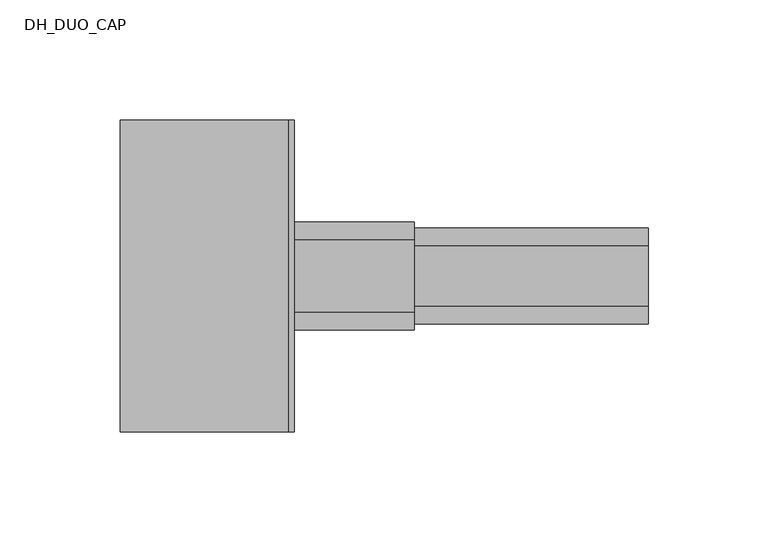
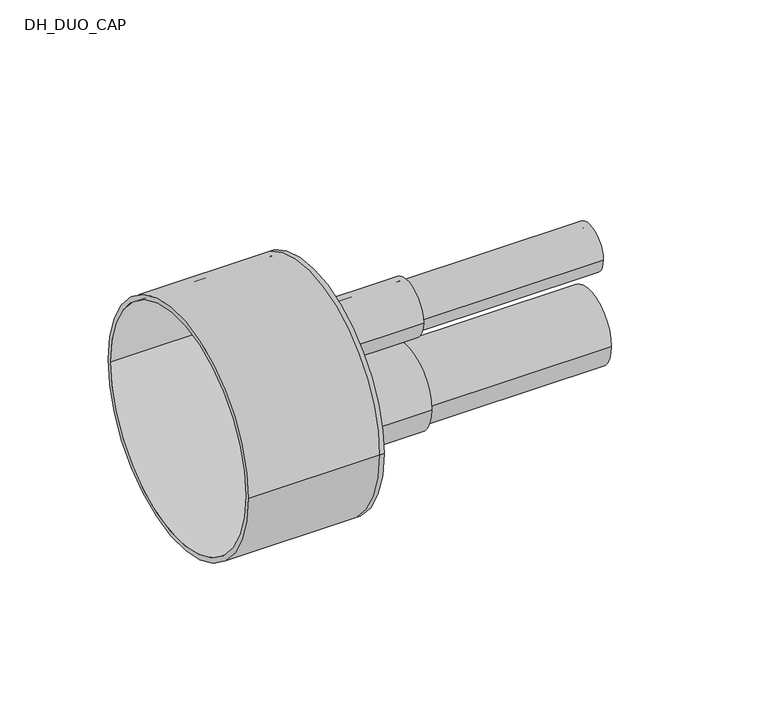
"""IFC4 building model written with IfcOpenShell, lengths in millimetres: pipe fitting geometry, DH_DUO_CAP : INSULPEX DUO 7.4 DW - Rubber Cap."""

from ifc_helpers import new_model, si_unit, point, frame, frame_2d, origin, place, context, project, spatial, polyline, circle_curve, trimmed, segment, composite_curve, outline, extrude, source, transform, mapped, element, save
from ifc_brep_helpers import plane_surface, cylinder_surface, revolved_surface, advanced_brep


def dh_duo_cap_7376605e(model_context):
    return source(origin(), model_context, "Body", "SolidModel", [
        extrude(outline(composite_curve([segment(trimmed(circle_curve(frame_2d((0.0, -18.5)), 20.0), [point((-20.0, -18.5))], [point((20.0, -18.5))], False, "CARTESIAN"), True, "CONTINUOUS"), segment(trimmed(circle_curve(frame_2d((0.0, -18.5)), 20.0), [point((20.0, -18.5))], [point((-20.0, -18.5))], False, "CARTESIAN"), True, "CONTINUOUS")], self_intersect=False), holes=[composite_curve([segment(trimmed(circle_curve(frame_2d((0.0, -18.5)), 14.5), [point((-14.5, -18.5))], [point((14.5, -18.5))], True, "CARTESIAN"), True, "CONTINUOUS"), segment(trimmed(circle_curve(frame_2d((0.0, -18.5)), 14.5), [point((14.5, -18.5))], [point((-14.5, -18.5))], True, "CARTESIAN"), True, "CONTINUOUS")], self_intersect=False)]), frame((0.0, 0.0, 0.0), z_axis=(1.0, 0.0, 0.0), x_axis=(0.0, 1.0, 0.0)), (0.0, 0.0, 1.0), 150.0),
        extrude(outline(composite_curve([segment(trimmed(circle_curve(frame_2d((0.0, 26.0)), 12.5), [point((-12.5, 26.0))], [point((12.5, 26.0))], False, "CARTESIAN"), True, "CONTINUOUS"), segment(trimmed(circle_curve(frame_2d((0.0, 26.0)), 12.5), [point((12.5, 26.0))], [point((-12.5, 26.0))], False, "CARTESIAN"), True, "CONTINUOUS")], self_intersect=False), holes=[composite_curve([segment(trimmed(circle_curve(frame_2d((0.0, 26.0)), 9.0), [point((-9.0, 26.0))], [point((9.0, 26.0))], True, "CARTESIAN"), True, "CONTINUOUS"), segment(trimmed(circle_curve(frame_2d((0.0, 26.0)), 9.0), [point((9.0, 26.0))], [point((-9.0, 26.0))], True, "CARTESIAN"), True, "CONTINUOUS")], self_intersect=False)]), frame((0.0, 0.0, 0.0), z_axis=(1.0, 0.0, 0.0), x_axis=(0.0, 1.0, 0.0)), (0.0, 0.0, 1.0), 150.0),
        advanced_brep(
        [(-70.0, -65.0, 0.0), (-70.0, 65.0, 0.0), (-70.0, -62.5, 0.0), (-70.0, 62.5, 0.0), (0.0, -62.5, 0.0), (0.0, 62.5, 0.0), (0.0, -65.0, 0.0), (0.0, 65.0, 0.0), (0.0, 12.5, 26.0), (0.0, -12.5, 26.0), (0.0, 20.0, -18.5), (0.0, -20.0, -18.5), (2.5, -65.0, 0.0), (2.5, 65.0, 0.0), (2.5, -12.5, 26.0), (2.5, 12.5, 26.0), (2.5, -20.0, -18.5), (2.5, 20.0, -18.5)],
        [
            (0, 1, circle_curve(frame((-70.0, 0.0, 0.0), z_axis=(-1.0, 0.0, 0.0), x_axis=(0.0, 1.0, 0.0)), 65.0)),
            (1, 0, circle_curve(frame((-70.0, 0.0, 0.0), z_axis=(-1.0, 0.0, 0.0), x_axis=(0.0, 1.0, 0.0)), 65.0)),
            (2, 3, circle_curve(frame((-70.0, 0.0, 0.0), z_axis=(1.0, 0.0, 0.0), x_axis=(0.0, 1.0, 0.0)), 62.5)),
            (3, 2, circle_curve(frame((-70.0, 0.0, 0.0), z_axis=(1.0, 0.0, 0.0), x_axis=(0.0, 1.0, 0.0)), 62.5)),
            (2, 4),
            (4, 5, circle_curve(frame((0.0, 0.0, 0.0), z_axis=(1.0, 0.0, 0.0), x_axis=(0.0, 1.0, 0.0)), 62.5)),
            (5, 3),
            (5, 4, circle_curve(frame((0.0, 0.0, 0.0), z_axis=(1.0, 0.0, 0.0), x_axis=(0.0, 1.0, 0.0)), 62.5)),
            (0, 6),
            (6, 7, circle_curve(frame((0.0, 0.0, 0.0), z_axis=(-1.0, 0.0, 0.0), x_axis=(0.0, 1.0, 0.0)), 65.0)),
            (7, 1),
            (7, 6, circle_curve(frame((0.0, 0.0, 0.0), z_axis=(-1.0, 0.0, 0.0), x_axis=(0.0, 1.0, 0.0)), 65.0)),
            (8, 9, circle_curve(frame((0.0, 0.0, 26.0), z_axis=(1.0, 0.0, 0.0), x_axis=(0.0, 1.0, 0.0)), 12.5)),
            (9, 8, circle_curve(frame((0.0, 0.0, 26.0), z_axis=(1.0, 0.0, 0.0), x_axis=(0.0, 1.0, 0.0)), 12.5)),
            (10, 11, circle_curve(frame((0.0, 0.0, -18.5), z_axis=(1.0, 0.0, 0.0), x_axis=(0.0, 1.0, 0.0)), 20.0)),
            (11, 10, circle_curve(frame((0.0, 0.0, -18.5), z_axis=(1.0, 0.0, 0.0), x_axis=(0.0, 1.0, 0.0)), 20.0)),
            (12, 13, circle_curve(frame((2.5, 0.0, 0.0), z_axis=(1.0, 0.0, 0.0), x_axis=(0.0, 1.0, 0.0)), 65.0)),
            (13, 12, circle_curve(frame((2.5, 0.0, 0.0), z_axis=(1.0, 0.0, 0.0), x_axis=(0.0, 1.0, 0.0)), 65.0)),
            (14, 15, circle_curve(frame((2.5, 0.0, 26.0), z_axis=(-1.0, 0.0, 0.0), x_axis=(0.0, 1.0, 0.0)), 12.5)),
            (15, 14, circle_curve(frame((2.5, 0.0, 26.0), z_axis=(-1.0, 0.0, 0.0), x_axis=(0.0, 1.0, 0.0)), 12.5)),
            (16, 17, circle_curve(frame((2.5, 0.0, -18.5), z_axis=(-1.0, 0.0, 0.0), x_axis=(0.0, 1.0, 0.0)), 20.0)),
            (17, 16, circle_curve(frame((2.5, 0.0, -18.5), z_axis=(-1.0, 0.0, 0.0), x_axis=(0.0, 1.0, 0.0)), 20.0)),
            (13, 7),
            (6, 12),
            (8, 15),
            (14, 9),
            (10, 17),
            (16, 11),
        ],
        [
            plane_surface(frame((-70.0, 0.0, 0.0), z_axis=(-1.0, 0.0, 0.0), x_axis=(0.0, 0.0, 1.0))),
            revolved_surface(polyline([(0.0, 62.5, 0.0), (-70.0, 62.5, 0.0)]), (-70.0, 0.0, 0.0), (1.0, 0.0, 0.0)),
            cylinder_surface(frame((-70.0, 0.0, 0.0), z_axis=(-1.0, 0.0, 0.0), x_axis=(0.0, 1.0, 0.0)), 65.0),
            plane_surface(frame((0.0, 0.0, 0.0), z_axis=(-1.0, 0.0, 0.0), x_axis=(0.0, 0.0, 1.0))),
            plane_surface(frame((2.5, 0.0, 0.0), z_axis=(1.0, 0.0, 0.0), x_axis=(0.0, 0.0, 1.0))),
            cylinder_surface(frame((0.0, 0.0, 0.0), z_axis=(-1.0, 0.0, 0.0), x_axis=(0.0, 1.0, 0.0)), 65.0),
            revolved_surface(polyline([(0.0, 12.5, 26.0), (2.5, 12.5, 26.0)]), (0.0, 0.0, 26.0), (-1.0, 0.0, 0.0)),
            revolved_surface(polyline([(0.0, 20.0, -18.5), (2.5, 20.0, -18.5)]), (0.0, 0.0, -18.5), (-1.0, 0.0, 0.0)),
        ],
        [
            (0, [[1, 2], [3, 4]]),
            (1, [[-3, 5, 6, 7]]),
            (1, [[-4, -7, 8, -5]]),
            (2, [[-1, 9, 10, 11]]),
            (2, [[-2, -11, 12, -9]]),
            (3, [[-6, -8], [13, 14], [15, 16]]),
            (4, [[17, 18], [19, 20], [21, 22]]),
            (5, [[-18, 23, -10, 24]]),
            (5, [[-17, -24, -12, -23]]),
            (6, [[25, -19, 26, -13]]),
            (6, [[-25, -14, -26, -20]]),
            (7, [[27, -21, 28, -15]]),
            (7, [[-27, -16, -28, -22]]),
        ],
    ),
        extrude(outline(composite_curve([segment(trimmed(circle_curve(frame_2d((0.0, -18.5)), 22.5), [point((-22.5, -18.5))], [point((22.5, -18.5))], False, "CARTESIAN"), True, "CONTINUOUS"), segment(trimmed(circle_curve(frame_2d((0.0, -18.5)), 22.5), [point((22.5, -18.5))], [point((-22.5, -18.5))], False, "CARTESIAN"), True, "CONTINUOUS")], self_intersect=False), holes=[composite_curve([segment(trimmed(circle_curve(frame_2d((0.0, -18.5)), 20.0), [point((-20.0, -18.5))], [point((20.0, -18.5))], True, "CARTESIAN"), True, "CONTINUOUS"), segment(trimmed(circle_curve(frame_2d((0.0, -18.5)), 20.0), [point((20.0, -18.5))], [point((-20.0, -18.5))], True, "CARTESIAN"), True, "CONTINUOUS")], self_intersect=False)]), frame((2.5, 0.0, 0.0), z_axis=(1.0, 0.0, 0.0), x_axis=(0.0, 1.0, 0.0)), (0.0, 0.0, 1.0), 50.0),
        extrude(outline(composite_curve([segment(trimmed(circle_curve(frame_2d((0.0, 26.0)), 15.0), [point((-15.0, 26.0))], [point((15.0, 26.0))], False, "CARTESIAN"), True, "CONTINUOUS"), segment(trimmed(circle_curve(frame_2d((0.0, 26.0)), 15.0), [point((15.0, 26.0))], [point((-15.0, 26.0))], False, "CARTESIAN"), True, "CONTINUOUS")], self_intersect=False), holes=[composite_curve([segment(trimmed(circle_curve(frame_2d((0.0, 26.0)), 12.5), [point((-12.5, 26.0))], [point((12.5, 26.0))], True, "CARTESIAN"), True, "CONTINUOUS"), segment(trimmed(circle_curve(frame_2d((0.0, 26.0)), 12.5), [point((12.5, 26.0))], [point((-12.5, 26.0))], True, "CARTESIAN"), True, "CONTINUOUS")], self_intersect=False)]), frame((2.5, 0.0, 0.0), z_axis=(1.0, 0.0, 0.0), x_axis=(0.0, 1.0, 0.0)), (0.0, 0.0, 1.0), 50.0),
    ])


if __name__ == "__main__":
    model = new_model("IFC4")
    model_context = context("Model", 3, world=origin())
    ifc_project = project(units=[si_unit("LENGTHUNIT", "METRE", prefix="MILLI")], contexts=[model_context])
    site = spatial("IfcSite", under=ifc_project)
    building = spatial("IfcBuilding", under=site)
    placement = place(None, origin())
    dh_duo_cap_shape = dh_duo_cap_7376605e(model_context)
    element("IfcPipeFitting", 1, ObjectType="DH_DUO_CAP : INSULPEX DUO 7.4 DW - Rubber Cap", at=placement, inside=building, context=model_context, shape_type="MappedRepresentation", body=[
        mapped(dh_duo_cap_shape, transform((0.0, 0.0, 0.0), x_axis=(1.0, 0.0, 0.0), y_axis=(0.0, 1.0, 0.0), z_axis=(0.0, 0.0, 1.0))),
    ])
    save(model, "model.ifc")
